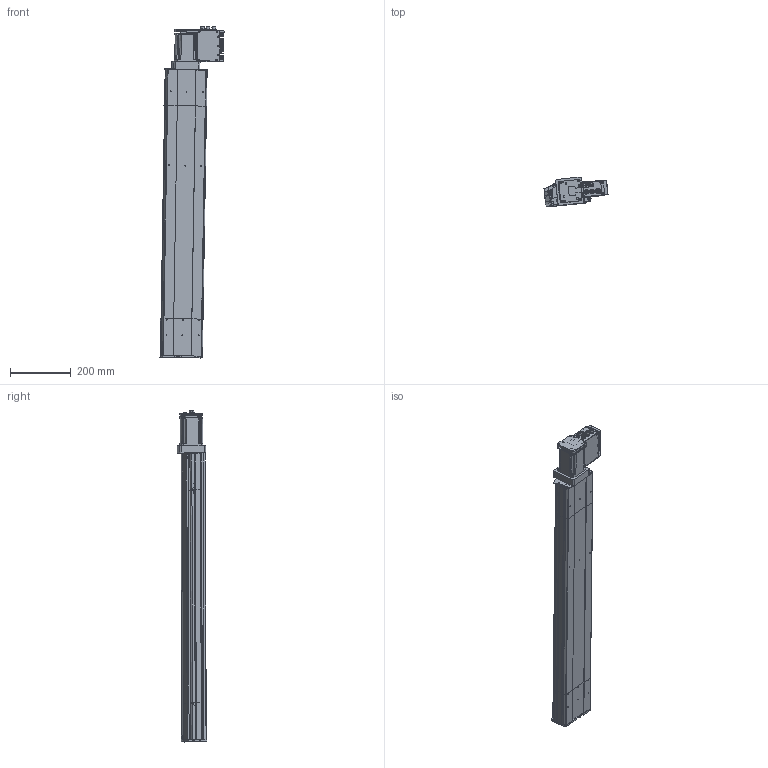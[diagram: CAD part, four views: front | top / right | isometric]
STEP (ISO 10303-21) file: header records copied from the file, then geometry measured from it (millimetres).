
FILE_DESCRIPTION (( 'STEP AP203' ), '1' );
FILE_NAME ('D14 TSH M4 MD L10 S700.STEP', '2012-10-08T07:54:23', ( '' ), ( '' ), 'SwSTEP 2.0', 'SolidWorks 2010', '' );
FILE_SCHEMA (( 'CONFIG_CONTROL_DESIGN' ));
Length unit declared in the file: millimetre
Products named in the file (22): corp head D14_Default_2; T犨e contre le moteur_2; Sub D 9cts_2; T犨e fond_2; Connecteur rond D12 4cts_2; Moteur 70BLDC90A_2; Pièce702; couvercle D14 head_Default_2; Pièce700; D14 TSH M4 MD L10 S700; plaque de  bout head D14 MD_Default_2; Plaque racord D10.2_Default_2; corpl tail D14_Default_2; Moteur_2; Connecteur rond D10 3cts_2; Tôle Arrière_2; Couvercle_2; Tôle latérale_2; Colonnette_2; Radiateur_2; Vis TF 3 torkx_2; plaque de  bout tail D14_Default_2
Assembly tree (49 placements, depth 3):
  D14 TSH M4 MD L10 S700
    corpl tail D14_Default_2
    plaque de  bout tail D14_Default_2
    couvercle D14 head_Default_2  x2
    Pièce702
    Pièce700
    Plaque racord D10.2_Default_2
    Moteur_2
      Moteur 70BLDC90A_2
      T犨e fond_2
      Radiateur_2
      Vis TF 3 torkx_2  x26
      Colonnette_2
      T犨e contre le moteur_2
      Couvercle_2
      Connecteur rond D10 3cts_2  x2
      Tôle latérale_2  x2
      Sub D 9cts_2
      Connecteur rond D12 4cts_2
      Tôle Arrière_2
    corp head D14_Default_2
    plaque de  bout head D14 MD_Default_2
Bounding box: 210.46 x 96.55 x 1091.04 mm (x, y, z)
Volume: 3326377.1 mm3; surface area: 1153149.1 mm2
Topology: 70 solids, 70 shells, 2391 faces, 6228 edges, 4107 vertices
Faces by surface type: plane 1275, cylinder 852, cone 134, bspline 130
Entity records: 63974 total; most frequent: CARTESIAN_POINT 20710, ORIENTED_EDGE 8414, DIRECTION 8094, EDGE_CURVE 4207, VERTEX_POINT 2781, VECTOR 2772, LINE 2772, AXIS2_PLACEMENT_3D 2661
